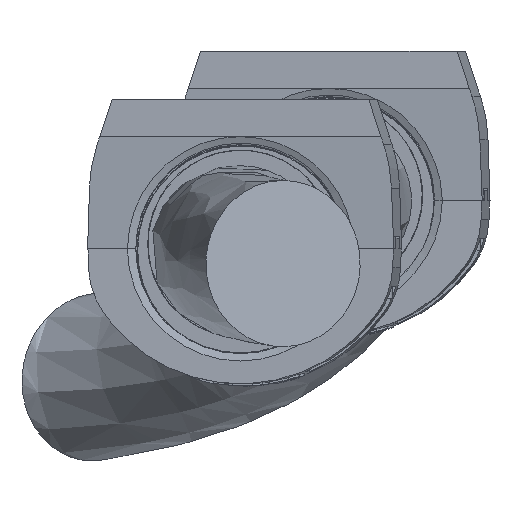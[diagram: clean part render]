
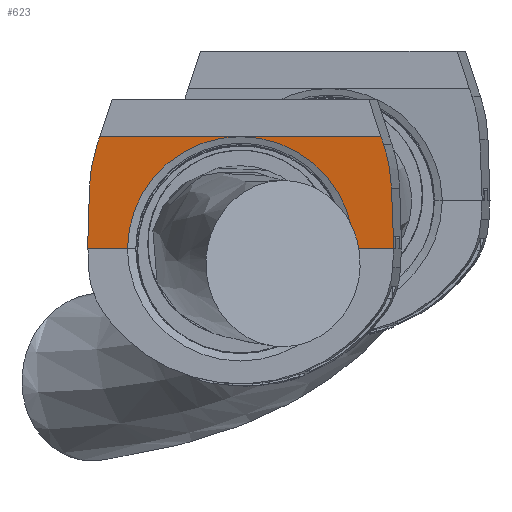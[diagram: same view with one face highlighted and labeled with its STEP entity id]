
A CAD part, top view. The second image highlights one B-rep face of the part: STEP entity #623.
In plain terms, the highlighted planar face has unit normal (-0.091, -0.035, 0.995).
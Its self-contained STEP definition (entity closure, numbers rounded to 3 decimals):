
#291 = EDGE_LOOP ( 'NONE', ( #11769, #9357, #3816, #3674, #503, #3547, #6720, #1163, #6407, #1435 ) ) ;
#503 = ORIENTED_EDGE ( 'NONE', *, *, #4876, .T. ) ;
#623 = ADVANCED_FACE ( 'NONE', ( #11284 ), #4511, .F. ) ;
#672 = AXIS2_PLACEMENT_3D ( 'NONE', #10834, #823, #4194 ) ;
#683 = DIRECTION ( 'NONE',  ( -0.003, 0.999, 0.035 ) ) ;
#766 = LINE ( 'NONE', #12397, #5782 ) ;
#791 = VERTEX_POINT ( 'NONE', #3811 ) ;
#823 = DIRECTION ( 'NONE',  ( 0.091, 0.035, -0.995 ) ) ;
#851 = LINE ( 'NONE', #10615, #8659 ) ;
#1127 = LINE ( 'NONE', #6046, #9869 ) ;
#1163 = ORIENTED_EDGE ( 'NONE', *, *, #3135, .T. ) ;
#1302 = CARTESIAN_POINT ( 'NONE',  ( 804.205, -469.071, 1467.205 ) ) ;
#1435 = ORIENTED_EDGE ( 'NONE', *, *, #11842, .T. ) ;
#1648 = VERTEX_POINT ( 'NONE', #3799 ) ;
#1699 = VERTEX_POINT ( 'NONE', #6036 ) ;
#1768 =( BOUNDED_CURVE ( )  B_SPLINE_CURVE ( 3, ( #2394, #8005, #1302, #8077 ),
 .UNSPECIFIED., .F., .T. ) 
 B_SPLINE_CURVE_WITH_KNOTS ( ( 4, 4 ),
 ( 4.747, 5.032 ),
 .UNSPECIFIED. ) 
 CURVE ( )  GEOMETRIC_REPRESENTATION_ITEM ( )  RATIONAL_B_SPLINE_CURVE ( ( 1., 0.993, 0.993, 1. ) ) 
 REPRESENTATION_ITEM ( '' )  );
#2394 = CARTESIAN_POINT ( 'NONE',  ( 805.756, -483.256, 1466.85 ) ) ;
#3135 = EDGE_CURVE ( 'NONE', #1648, #791, #5169, .T. ) ;
#3209 = CARTESIAN_POINT ( 'NONE',  ( 660.411, -483.256, 1453.495 ) ) ;
#3231 = LINE ( 'NONE', #4051, #5606 ) ;
#3547 = ORIENTED_EDGE ( 'NONE', *, *, #10464, .F. ) ;
#3674 = ORIENTED_EDGE ( 'NONE', *, *, #12009, .T. ) ;
#3799 = CARTESIAN_POINT ( 'NONE',  ( 678.659, -512.5, 1454.146 ) ) ;
#3811 = CARTESIAN_POINT ( 'NONE',  ( 787.694, -512.5, 1464.165 ) ) ;
#3816 = ORIENTED_EDGE ( 'NONE', *, *, #10612, .F. ) ;
#3902 = CARTESIAN_POINT ( 'NONE',  ( 664.089, -462.284, 1454.568 ) ) ;
#3906 = EDGE_CURVE ( 'NONE', #11093, #12140, #1768, .T. ) ;
#4051 = CARTESIAN_POINT ( 'NONE',  ( 660.362, -484.794, 1453.436 ) ) ;
#4194 = DIRECTION ( 'NONE',  ( -0.003, 0.999, 0.035 ) ) ;
#4208 = CARTESIAN_POINT ( 'NONE',  ( 664.089, -462.284, 1454.568 ) ) ;
#4441 = EDGE_CURVE ( 'NONE', #12140, #7799, #766, .T. ) ;
#4511 = PLANE ( 'NONE',  #10632 ) ;
#4876 = EDGE_CURVE ( 'NONE', #5493, #5543, #11723, .T. ) ;
#5027 = DIRECTION ( 'NONE',  ( -0.996, 0., -0.092 ) ) ;
#5169 = CIRCLE ( 'NONE', #672, 54.752 ) ;
#5410 = EDGE_CURVE ( 'NONE', #9795, #791, #11766, .T. ) ;
#5475 = CARTESIAN_POINT ( 'NONE',  ( 633.611, -517.158, 1449.843 ) ) ;
#5493 = VERTEX_POINT ( 'NONE', #3902 ) ;
#5543 = VERTEX_POINT ( 'NONE', #3209 ) ;
#5606 = VECTOR ( 'NONE', #7947, 1000. ) ;
#5782 = VECTOR ( 'NONE', #11235, 1000. ) ;
#5797 = VECTOR ( 'NONE', #5951, 1000. ) ;
#5927 = CARTESIAN_POINT ( 'NONE',  ( 805.756, -483.256, 1466.85 ) ) ;
#5951 = DIRECTION ( 'NONE',  ( -0.996, 0., -0.092 ) ) ;
#6028 = VECTOR ( 'NONE', #9102, 1000. ) ;
#6036 = CARTESIAN_POINT ( 'NONE',  ( 665.325, -458.5, 1454.814 ) ) ;
#6046 = CARTESIAN_POINT ( 'NONE',  ( 659.487, -512.5, 1452.384 ) ) ;
#6108 = EDGE_CURVE ( 'NONE', #1648, #10595, #1127, .T. ) ;
#6289 = DIRECTION ( 'NONE',  ( -0.31, -0.949, -0.062 ) ) ;
#6407 = ORIENTED_EDGE ( 'NONE', *, *, #5410, .F. ) ;
#6720 = ORIENTED_EDGE ( 'NONE', *, *, #6108, .F. ) ;
#6722 = CARTESIAN_POINT ( 'NONE',  ( 659.487, -512.5, 1452.384 ) ) ;
#7603 = CARTESIAN_POINT ( 'NONE',  ( 806.866, -512.5, 1465.926 ) ) ;
#7799 = VERTEX_POINT ( 'NONE', #12241 ) ;
#7947 = DIRECTION ( 'NONE',  ( 0.032, 0.999, 0.038 ) ) ;
#8005 = CARTESIAN_POINT ( 'NONE',  ( 805.485, -476.11, 1467.076 ) ) ;
#8077 = CARTESIAN_POINT ( 'NONE',  ( 801.944, -462.284, 1467.235 ) ) ;
#8106 = CARTESIAN_POINT ( 'NONE',  ( 661.871, -469.071, 1454.126 ) ) ;
#8659 = VECTOR ( 'NONE', #12548, 1000. ) ;
#9102 = DIRECTION ( 'NONE',  ( -0.038, 0.999, 0.032 ) ) ;
#9357 = ORIENTED_EDGE ( 'NONE', *, *, #4441, .T. ) ;
#9718 = CARTESIAN_POINT ( 'NONE',  ( 659.487, -512.5, 1452.384 ) ) ;
#9795 = VERTEX_POINT ( 'NONE', #7603 ) ;
#9869 = VECTOR ( 'NONE', #5027, 1000. ) ;
#10102 = VECTOR ( 'NONE', #6289, 1000. ) ;
#10143 = CARTESIAN_POINT ( 'NONE',  ( 660.411, -483.256, 1453.495 ) ) ;
#10464 = EDGE_CURVE ( 'NONE', #10595, #5543, #3231, .T. ) ;
#10595 = VERTEX_POINT ( 'NONE', #6722 ) ;
#10612 = EDGE_CURVE ( 'NONE', #1699, #7799, #851, .T. ) ;
#10615 = CARTESIAN_POINT ( 'NONE',  ( 633.424, -458.5, 1451.883 ) ) ;
#10632 = AXIS2_PLACEMENT_3D ( 'NONE', #5475, #12314, #683 ) ;
#10834 = CARTESIAN_POINT ( 'NONE',  ( 733.179, -513.219, 1459.13 ) ) ;
#11017 = CARTESIAN_POINT ( 'NONE',  ( 806.813, -511.091, 1465.971 ) ) ;
#11093 = VERTEX_POINT ( 'NONE', #5927 ) ;
#11143 = CARTESIAN_POINT ( 'NONE',  ( 801.944, -462.284, 1467.235 ) ) ;
#11235 = DIRECTION ( 'NONE',  ( -0.316, 0.949, 0.004 ) ) ;
#11262 = CARTESIAN_POINT ( 'NONE',  ( 644.93, -520.916, 1450.751 ) ) ;
#11284 = FACE_OUTER_BOUND ( 'NONE', #291, .T. ) ;
#11723 =( BOUNDED_CURVE ( )  B_SPLINE_CURVE ( 3, ( #4208, #8106, #12008, #10143 ),
 .UNSPECIFIED., .F., .T. ) 
 B_SPLINE_CURVE_WITH_KNOTS ( ( 4, 4 ),
 ( 1.251, 1.536 ),
 .UNSPECIFIED. ) 
 CURVE ( )  GEOMETRIC_REPRESENTATION_ITEM ( )  RATIONAL_B_SPLINE_CURVE ( ( 1., 0.993, 0.993, 1. ) ) 
 REPRESENTATION_ITEM ( '' )  );
#11766 = LINE ( 'NONE', #9718, #5797 ) ;
#11769 = ORIENTED_EDGE ( 'NONE', *, *, #3906, .T. ) ;
#11842 = EDGE_CURVE ( 'NONE', #9795, #11093, #11919, .T. ) ;
#11919 = LINE ( 'NONE', #11017, #6028 ) ;
#12008 = CARTESIAN_POINT ( 'NONE',  ( 660.636, -476.11, 1453.766 ) ) ;
#12009 = EDGE_CURVE ( 'NONE', #1699, #5493, #12110, .T. ) ;
#12110 = LINE ( 'NONE', #11262, #10102 ) ;
#12140 = VERTEX_POINT ( 'NONE', #11143 ) ;
#12241 = CARTESIAN_POINT ( 'NONE',  ( 800.683, -458.5, 1467.252 ) ) ;
#12314 = DIRECTION ( 'NONE',  ( 0.091, 0.035, -0.995 ) ) ;
#12397 = CARTESIAN_POINT ( 'NONE',  ( 801.605, -461.268, 1467.24 ) ) ;
#12548 = DIRECTION ( 'NONE',  ( 0.996, 0., 0.092 ) ) ;
